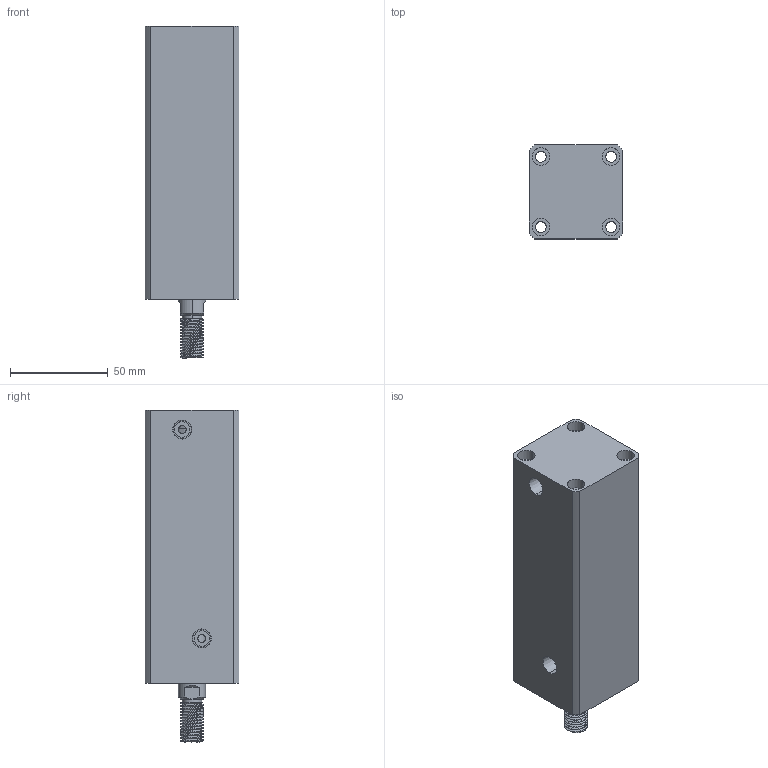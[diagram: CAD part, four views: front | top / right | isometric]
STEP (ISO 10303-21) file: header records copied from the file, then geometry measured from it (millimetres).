
FILE_DESCRIPTION (( 'STEP AP214' ), '1' );
FILE_NAME ('chtb-sd25x95w_asm.STEP', '2018-05-22T09:48:56', ( 'Windows' ), ( 'Microsoft' ), 'SwSTEP 2.0', 'SolidWorks 2015', '' );
FILE_SCHEMA (( 'AUTOMOTIVE_DESIGN' ));
Length unit declared in the file: millimetre
Products named in the file (4): CHTB-SD25X95WHSG; CHTB-SD25X95NBT; CHTB-25QG; chtb-sd25x95w_asm
Assembly tree (3 placements, depth 2):
  chtb-sd25x95w_asm
    CHTB-25QG
    CHTB-SD25X95NBT
    CHTB-SD25X95WHSG
Bounding box: 48 x 48 x 170 mm (x, y, z)
Volume: 274121.8 mm3; surface area: 66267.3 mm2
Topology: 3 solids, 3 shells, 178 faces, 474 edges, 323 vertices
Faces by surface type: cylinder 113, plane 39, cone 14, bspline 12
Entity records: 10610 total; most frequent: CARTESIAN_POINT 6273, ORIENTED_EDGE 940, DIRECTION 778, EDGE_CURVE 470, VERTEX_POINT 323, AXIS2_PLACEMENT_3D 317, EDGE_LOOP 217, ADVANCED_FACE 178
